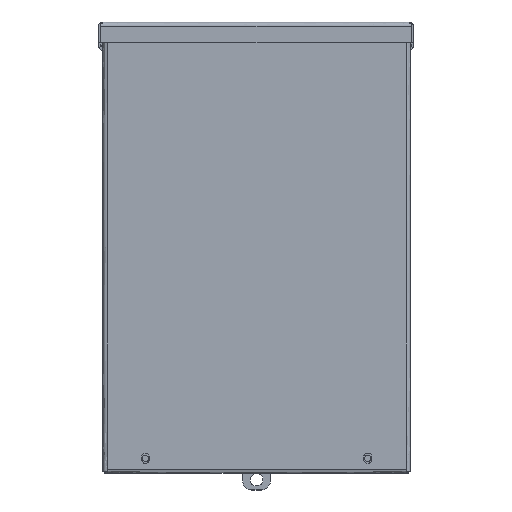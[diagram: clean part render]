
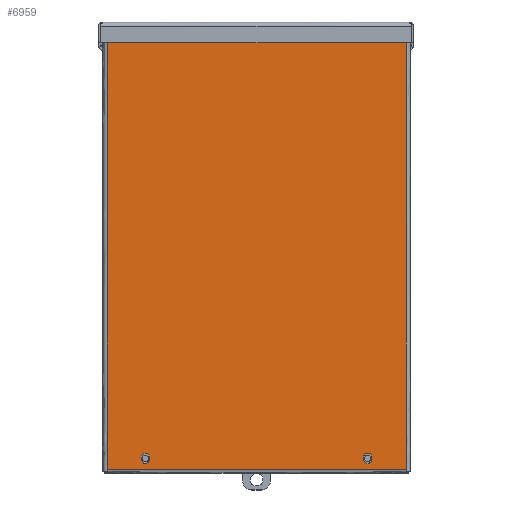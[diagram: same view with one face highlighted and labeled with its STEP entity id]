
A CAD part, top view. The second image highlights one B-rep face of the part: STEP entity #6959.
In plain terms, the highlighted free-form (B-spline) face has degree [1, 1] with [2, 2] control points.
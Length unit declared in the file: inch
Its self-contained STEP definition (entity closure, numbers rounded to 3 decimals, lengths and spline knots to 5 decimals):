
#6174=CARTESIAN_POINT('V71',(0.9855,-0.055,
   11.622));
#6175=VERTEX_POINT('V71',#6174);
#6183=CARTESIAN_POINT('V74',(1.2045,-0.055,
   11.622));
#6184=VERTEX_POINT('V74',#6183);
#6185=CARTESIAN_POINT('E88',(1.2045,-0.055,
   11.622));
#6186=CARTESIAN_POINT('E88',(1.2045,-0.055,
   11.5125));
#6187=CARTESIAN_POINT('E88',(1.095,-0.055,
   11.5125));
#6188=CARTESIAN_POINT('E88',(0.9855,-0.055,
   11.5125));
#6189=CARTESIAN_POINT('E88',(0.9855,-0.055,
   11.622));
#6197=(BOUNDED_CURVE()B_SPLINE_CURVE(2,(#6185,#6186,#6187,#6188,
   #6189),.CIRCULAR_ARC.,.F.,.U.)B_SPLINE_CURVE_WITH_KNOTS((3,2,3),
   (0.0,0.5,1.0),.UNSPECIFIED.)CURVE()
   GEOMETRIC_REPRESENTATION_ITEM()RATIONAL_B_SPLINE_CURVE((1.0,
   0.707,1.0,0.707,1.0))REPRESENTATION_ITEM(
   'E88'));
#6198=EDGE_CURVE('E88',#6184,#6175,#6197,.T.);
#6231=CARTESIAN_POINT('V73',(1.2045,-0.055,
   11.684));
#6232=VERTEX_POINT('V73',#6231);
#6233=CARTESIAN_POINT('E87',(1.2045,-0.055,
   11.684));
#6234=CARTESIAN_POINT('E87',(1.2045,-0.055,
   11.622));
#6235=QUASI_UNIFORM_CURVE('E87',1,(#6233,#6234),.POLYLINE_FORM.,.F.,
   .U.);
#6236=EDGE_CURVE('E87',#6232,#6184,#6235,.T.);
#6272=CARTESIAN_POINT('V72',(0.9855,-0.055,
   11.684));
#6273=VERTEX_POINT('V72',#6272);
#6274=CARTESIAN_POINT('E86',(0.9855,-0.055,
   11.684));
#6275=CARTESIAN_POINT('E86',(0.9855,-0.055,
   11.7935));
#6276=CARTESIAN_POINT('E86',(1.095,-0.055,
   11.7935));
#6277=CARTESIAN_POINT('E86',(1.2045,-0.055,
   11.7935));
#6278=CARTESIAN_POINT('E86',(1.2045,-0.055,
   11.684));
#6286=(BOUNDED_CURVE()B_SPLINE_CURVE(2,(#6274,#6275,#6276,#6277,
   #6278),.CIRCULAR_ARC.,.F.,.U.)B_SPLINE_CURVE_WITH_KNOTS((3,2,3),
   (0.0,0.5,1.0),.UNSPECIFIED.)CURVE()
   GEOMETRIC_REPRESENTATION_ITEM()RATIONAL_B_SPLINE_CURVE((1.0,
   0.707,1.0,0.707,1.0))REPRESENTATION_ITEM(
   'E86'));
#6287=EDGE_CURVE('E86',#6273,#6232,#6286,.T.);
#6320=CARTESIAN_POINT('E85',(0.9855,-0.055,
   11.622));
#6321=CARTESIAN_POINT('E85',(0.9855,-0.055,
   11.684));
#6322=QUASI_UNIFORM_CURVE('E85',1,(#6320,#6321),.POLYLINE_FORM.,.F.,
   .U.);
#6323=EDGE_CURVE('E85',#6175,#6273,#6322,.T.);
#6352=CARTESIAN_POINT('V67',(7.2045,-0.055,
   11.684));
#6353=VERTEX_POINT('V67',#6352);
#6361=CARTESIAN_POINT('V70',(6.9855,-0.055,
   11.684));
#6362=VERTEX_POINT('V70',#6361);
#6363=CARTESIAN_POINT('E84',(6.9855,-0.055,
   11.684));
#6364=CARTESIAN_POINT('E84',(6.9855,-0.055,
   11.7935));
#6365=CARTESIAN_POINT('E84',(7.095,-0.055,
   11.7935));
#6366=CARTESIAN_POINT('E84',(7.2045,-0.055,
   11.7935));
#6367=CARTESIAN_POINT('E84',(7.2045,-0.055,
   11.684));
#6375=(BOUNDED_CURVE()B_SPLINE_CURVE(2,(#6363,#6364,#6365,#6366,
   #6367),.CIRCULAR_ARC.,.F.,.U.)B_SPLINE_CURVE_WITH_KNOTS((3,2,3),
   (0.0,0.5,1.0),.UNSPECIFIED.)CURVE()
   GEOMETRIC_REPRESENTATION_ITEM()RATIONAL_B_SPLINE_CURVE((1.0,
   0.707,1.0,0.707,1.0))REPRESENTATION_ITEM(
   'E84'));
#6376=EDGE_CURVE('E84',#6362,#6353,#6375,.T.);
#6409=CARTESIAN_POINT('V69',(6.9855,-0.055,
   11.622));
#6410=VERTEX_POINT('V69',#6409);
#6411=CARTESIAN_POINT('E83',(6.9855,-0.055,
   11.622));
#6412=CARTESIAN_POINT('E83',(6.9855,-0.055,
   11.684));
#6413=QUASI_UNIFORM_CURVE('E83',1,(#6411,#6412),.POLYLINE_FORM.,.F.,
   .U.);
#6414=EDGE_CURVE('E83',#6410,#6362,#6413,.T.);
#6450=CARTESIAN_POINT('V68',(7.2045,-0.055,
   11.622));
#6451=VERTEX_POINT('V68',#6450);
#6452=CARTESIAN_POINT('E82',(7.2045,-0.055,
   11.622));
#6453=CARTESIAN_POINT('E82',(7.2045,-0.055,
   11.5125));
#6454=CARTESIAN_POINT('E82',(7.095,-0.055,
   11.5125));
#6455=CARTESIAN_POINT('E82',(6.9855,-0.055,
   11.5125));
#6456=CARTESIAN_POINT('E82',(6.9855,-0.055,
   11.622));
#6464=(BOUNDED_CURVE()B_SPLINE_CURVE(2,(#6452,#6453,#6454,#6455,
   #6456),.CIRCULAR_ARC.,.F.,.U.)B_SPLINE_CURVE_WITH_KNOTS((3,2,3),
   (0.0,0.5,1.0),.UNSPECIFIED.)CURVE()
   GEOMETRIC_REPRESENTATION_ITEM()RATIONAL_B_SPLINE_CURVE((1.0,
   0.707,1.0,0.707,1.0))REPRESENTATION_ITEM(
   'E82'));
#6465=EDGE_CURVE('E82',#6451,#6410,#6464,.T.);
#6498=CARTESIAN_POINT('E81',(7.2045,-0.055,
   11.684));
#6499=CARTESIAN_POINT('E81',(7.2045,-0.055,
   11.622));
#6500=QUASI_UNIFORM_CURVE('E81',1,(#6498,#6499),.POLYLINE_FORM.,.F.,
   .U.);
#6501=EDGE_CURVE('E81',#6353,#6451,#6500,.T.);
#6856=CARTESIAN_POINT('V44',(0.06,-0.055,
   11.945));
#6857=VERTEX_POINT('V44',#6856);
#6894=CARTESIAN_POINT('V45',(0.06,-0.055,
   0.0));
#6895=VERTEX_POINT('V45',#6894);
#6896=CARTESIAN_POINT('E52',(0.06,-0.055,
   0.0));
#6897=CARTESIAN_POINT('E52',(0.06,-0.055,
   11.945));
#6898=QUASI_UNIFORM_CURVE('E52',1,(#6896,#6897),.POLYLINE_FORM.,.F.,
   .U.);
#6899=EDGE_CURVE('E52',#6895,#6857,#6898,.T.);
#6920=CARTESIAN_POINT('F21',(8.13,-0.055,
   0.0));
#6921=CARTESIAN_POINT('F21',(8.13,-0.055,
   11.945));
#6922=CARTESIAN_POINT('F21',(0.06,-0.055,
   0.0));
#6923=CARTESIAN_POINT('F21',(0.06,-0.055,
   11.945));
#6924=B_SPLINE_SURFACE_WITH_KNOTS('F21',1,1,((#6920,#6922),(#6921,
   #6923)),.PLANE_SURF.,.F.,.F.,.U.,(2,2),(2,2),(
   0.00015,1.47989),(0.00015,
   0.99985),.UNSPECIFIED.);
#6925=CARTESIAN_POINT('V41',(8.13,-0.055,
   0.0));
#6926=VERTEX_POINT('V41',#6925);
#6927=CARTESIAN_POINT('E80',(0.06,-0.055,
   0.0));
#6928=CARTESIAN_POINT('E80',(8.13,-0.055,
   0.0));
#6929=QUASI_UNIFORM_CURVE('E80',1,(#6927,#6928),.POLYLINE_FORM.,.F.,
   .U.);
#6930=EDGE_CURVE('E80',#6895,#6926,#6929,.T.);
#6931=ORIENTED_EDGE('E80',*,*,#6930,.T.);
#6932=CARTESIAN_POINT('V40',(8.13,-0.055,
   11.945));
#6933=VERTEX_POINT('V40',#6932);
#6934=CARTESIAN_POINT('E48',(8.13,-0.055,
   11.945));
#6935=CARTESIAN_POINT('E48',(8.13,-0.055,
   0.0));
#6936=QUASI_UNIFORM_CURVE('E48',1,(#6934,#6935),.POLYLINE_FORM.,.F.,
   .U.);
#6937=EDGE_CURVE('E48',#6933,#6926,#6936,.T.);
#6938=ORIENTED_EDGE('E48',*,*,#6937,.F.);
#6939=CARTESIAN_POINT('E60',(0.06,-0.055,
   11.945));
#6940=CARTESIAN_POINT('E60',(8.13,-0.055,
   11.945));
#6941=QUASI_UNIFORM_CURVE('E60',1,(#6939,#6940),.POLYLINE_FORM.,.F.,
   .U.);
#6942=EDGE_CURVE('E60',#6857,#6933,#6941,.T.);
#6943=ORIENTED_EDGE('E60',*,*,#6942,.F.);
#6944=ORIENTED_EDGE('E52',*,*,#6899,.F.);
#6945=EDGE_LOOP('F21',(#6931,#6938,#6943,#6944));
#6946=FACE_OUTER_BOUND('F21',#6945,.T.);
#6947=ORIENTED_EDGE('E81',*,*,#6501,.T.);
#6948=ORIENTED_EDGE('E82',*,*,#6465,.T.);
#6949=ORIENTED_EDGE('E83',*,*,#6414,.T.);
#6950=ORIENTED_EDGE('E84',*,*,#6376,.T.);
#6951=EDGE_LOOP('F21',(#6947,#6948,#6949,#6950));
#6952=FACE_BOUND('F21',#6951,.T.);
#6953=ORIENTED_EDGE('E85',*,*,#6323,.T.);
#6954=ORIENTED_EDGE('E86',*,*,#6287,.T.);
#6955=ORIENTED_EDGE('E87',*,*,#6236,.T.);
#6956=ORIENTED_EDGE('E88',*,*,#6198,.T.);
#6957=EDGE_LOOP('F21',(#6953,#6954,#6955,#6956));
#6958=FACE_BOUND('F21',#6957,.T.);
#6959=ADVANCED_FACE('F21',(#6946,#6952,#6958),#6924,.T.);
